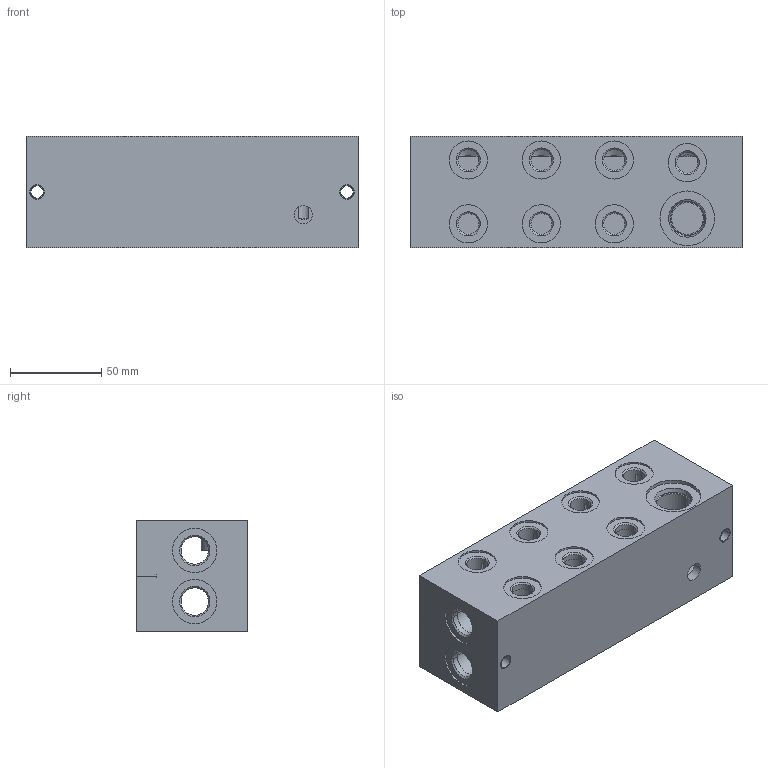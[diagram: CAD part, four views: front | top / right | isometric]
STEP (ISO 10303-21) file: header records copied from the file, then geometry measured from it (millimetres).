
FILE_DESCRIPTION((''),'2;1');
FILE_NAME('760_6930','2015-11-27T',('Ahcz.brigadnik05'),(''),'PRO/ENGINEER BY PARAMETRIC TECHNOLOGY CORPORATION, 2015110','PRO/ENGINEER BY PARAMETRIC TECHNOLOGY CORPORATION, 2015110','');
FILE_SCHEMA(('AUTOMOTIVE_DESIGN { 1 0 10303 214 1 1 1 1 }'));
Length unit declared in the file: millimetre
Products named in the file (1): 760_6930
Bounding box: 182 x 61 x 61 mm (x, y, z)
Volume: 258486.2 mm3; surface area: 105320.2 mm2
Topology: 1 solids, 31 shells, 284 faces, 1486 edges, 1373 vertices
Faces by surface type: cylinder 182, plane 60, cone 42
Entity records: 16279 total; most frequent: CARTESIAN_POINT 3221, DIRECTION 2437, ORIENTED_EDGE 1466, VECTOR 975, LINE 975, EDGE_CURVE 793, AXIS2_PLACEMENT_3D 731, TRIMMED_CURVE 688
